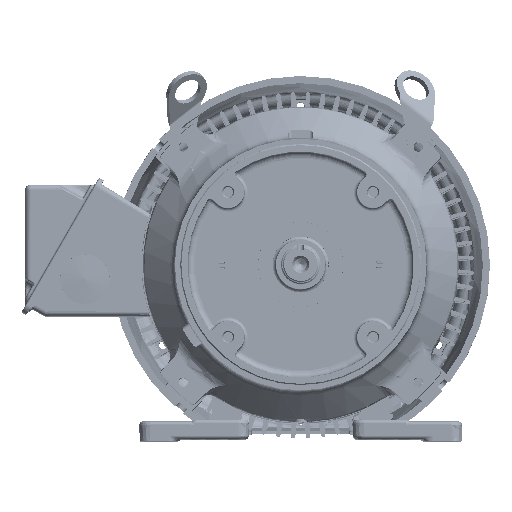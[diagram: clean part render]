
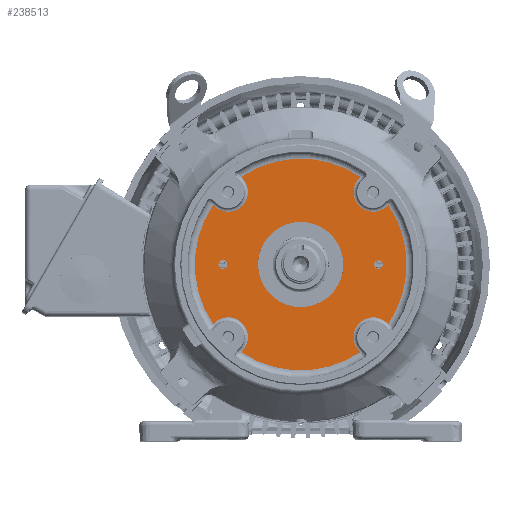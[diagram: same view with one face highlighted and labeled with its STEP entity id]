
A CAD part, top view. The second image highlights one B-rep face of the part: STEP entity #238513.
In plain terms, the highlighted planar face has unit normal (0, 0, 1) as drawn and (0, 0, -1) by its records, which use the part's own axes.
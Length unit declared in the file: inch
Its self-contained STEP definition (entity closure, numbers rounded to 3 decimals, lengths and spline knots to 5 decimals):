
#231382=CARTESIAN_POINT('',(0.,0.,-2.266));
#231383=DIRECTION('',(0.,0.,-1.));
#231384=DIRECTION('',(-0.827,-0.563,0.));
#231385=AXIS2_PLACEMENT_3D('',#231382,#231383,#231384);
#231397=CARTESIAN_POINT('',(0.,0.,-2.266));
#231398=DIRECTION('',(0.,0.,-1.));
#231399=DIRECTION('',(0.563,-0.827,0.));
#231400=AXIS2_PLACEMENT_3D('',#231397,#231398,#231399);
#231402=CARTESIAN_POINT('',(0.,0.,-2.266));
#231403=DIRECTION('',(0.,0.,-1.));
#231404=DIRECTION('',(-0.563,0.827,0.));
#231405=AXIS2_PLACEMENT_3D('',#231402,#231403,#231404);
#231412=CARTESIAN_POINT('',(0.,0.,-2.266));
#231413=DIRECTION('',(0.,0.,-1.));
#231414=DIRECTION('',(0.827,0.563,0.));
#231415=AXIS2_PLACEMENT_3D('',#231412,#231413,#231414);
#231437=CARTESIAN_POINT('',(-3.09494,-2.10574,
-2.266));
#231456=DIRECTION('',(-0.725,-0.688,
0.));
#231457=VECTOR('',#231456,0.07073);
#231458=CARTESIAN_POINT('',(-3.04364,-2.05705,-2.266));
#231459=LINE('',#231458,#231457);
#231470=CARTESIAN_POINT('',(-2.56326,-2.56326,-2.266));
#231471=DIRECTION('',(0.,0.,1.));
#231472=DIRECTION('',(0.725,-0.688,0.));
#231473=AXIS2_PLACEMENT_3D('',#231470,#231471,#231472);
#231484=DIRECTION('',(0.688,0.725,0.));
#231485=VECTOR('',#231484,0.07073);
#231486=CARTESIAN_POINT('',(-2.10574,-3.09494,
-2.266));
#231487=LINE('',#231486,#231485);
#231488=CARTESIAN_POINT('',(0.,0.,-2.266));
#231489=DIRECTION('',(0.,0.,1.));
#231490=DIRECTION('',(0.,1.,0.));
#231491=AXIS2_PLACEMENT_3D('',#231488,#231489,#231490);
#231493=CARTESIAN_POINT('',(0.,0.,-2.266));
#231494=DIRECTION('',(0.,0.,1.));
#231495=DIRECTION('',(0.,-1.,0.));
#231496=AXIS2_PLACEMENT_3D('',#231493,#231494,#231495);
#231498=CARTESIAN_POINT('',(2.75,0.,-2.266));
#231499=DIRECTION('',(0.,0.,1.));
#231500=DIRECTION('',(1.,0.,0.));
#231501=AXIS2_PLACEMENT_3D('',#231498,#231499,#231500);
#231503=CARTESIAN_POINT('',(2.75,0.,-2.266));
#231504=DIRECTION('',(0.,0.,1.));
#231505=DIRECTION('',(-1.,0.,0.));
#231506=AXIS2_PLACEMENT_3D('',#231503,#231504,#231505);
#231508=CARTESIAN_POINT('',(-2.75,0.,-2.266));
#231509=DIRECTION('',(0.,0.,1.));
#231510=DIRECTION('',(-1.,0.,0.));
#231511=AXIS2_PLACEMENT_3D('',#231508,#231509,#231510);
#231513=CARTESIAN_POINT('',(-2.75,0.,-2.266));
#231514=DIRECTION('',(0.,0.,1.));
#231515=DIRECTION('',(1.,0.,0.));
#231516=AXIS2_PLACEMENT_3D('',#231513,#231514,#231515);
#234155=DIRECTION('',(0.688,-0.725,0.));
#234156=VECTOR('',#234155,0.07073);
#234157=CARTESIAN_POINT('',(2.05705,-3.04364,-2.266));
#234158=LINE('',#234157,#234156);
#234219=CARTESIAN_POINT('',(3.09494,-2.10574,
-2.266));
#234230=DIRECTION('',(-0.725,0.688,0.));
#234231=VECTOR('',#234230,0.07073);
#234232=CARTESIAN_POINT('',(3.09494,-2.10574,
-2.266));
#234233=LINE('',#234232,#234231);
#234244=CARTESIAN_POINT('',(2.56326,-2.56326,-2.266));
#234245=DIRECTION('',(0.,0.,1.));
#234246=DIRECTION('',(0.688,0.725,0.));
#234247=AXIS2_PLACEMENT_3D('',#234244,#234245,#234246);
#234309=DIRECTION('',(0.725,0.688,0.));
#234310=VECTOR('',#234309,0.07073);
#234311=CARTESIAN_POINT('',(3.04364,2.05705,-2.266));
#234312=LINE('',#234311,#234310);
#234373=CARTESIAN_POINT('',(2.10574,3.09494,
-2.266));
#234384=DIRECTION('',(-0.688,-0.725,0.));
#234385=VECTOR('',#234384,0.07073);
#234386=CARTESIAN_POINT('',(2.10574,3.09494,
-2.266));
#234387=LINE('',#234386,#234385);
#234398=CARTESIAN_POINT('',(2.56326,2.56326,-2.266));
#234399=DIRECTION('',(0.,0.,1.));
#234400=DIRECTION('',(-0.725,0.688,0.));
#234401=AXIS2_PLACEMENT_3D('',#234398,#234399,#234400);
#234463=DIRECTION('',(-0.688,0.725,0.));
#234464=VECTOR('',#234463,0.07073);
#234465=CARTESIAN_POINT('',(-2.05705,3.04364,-2.266));
#234466=LINE('',#234465,#234464);
#234536=CARTESIAN_POINT('',(-2.56326,2.56326,-2.266));
#234537=DIRECTION('',(0.,0.,1.));
#234538=DIRECTION('',(-0.688,-0.725,0.));
#234539=AXIS2_PLACEMENT_3D('',#234536,#234537,#234538);
#234550=DIRECTION('',(0.725,-0.688,0.));
#234551=VECTOR('',#234550,0.07073);
#234552=CARTESIAN_POINT('',(-3.09494,2.10574,
-2.266));
#234553=LINE('',#234552,#234551);
#234577=CARTESIAN_POINT('',(-3.09494,2.10574,
-2.266));
#235448=VERTEX_POINT('',#231437);
#235452=CARTESIAN_POINT('',(-3.04364,-2.05705,-2.266));
#235453=VERTEX_POINT('',#235452);
#235456=CARTESIAN_POINT('',(-2.05705,-3.04364,-2.266));
#235457=VERTEX_POINT('',#235456);
#235460=CARTESIAN_POINT('',(-2.10574,-3.09494,
-2.266));
#235461=VERTEX_POINT('',#235460);
#235467=VERTEX_POINT('',#234577);
#235470=CARTESIAN_POINT('',(-3.04364,2.05705,-2.266));
#235471=VERTEX_POINT('',#235470);
#235474=CARTESIAN_POINT('',(-2.05705,3.04364,-2.266));
#235475=VERTEX_POINT('',#235474);
#235478=CARTESIAN_POINT('',(-2.10574,3.09494,
-2.266));
#235479=VERTEX_POINT('',#235478);
#235485=VERTEX_POINT('',#234373);
#235488=CARTESIAN_POINT('',(2.05705,3.04364,-2.266));
#235489=VERTEX_POINT('',#235488);
#235492=CARTESIAN_POINT('',(3.04364,2.05705,-2.266));
#235493=VERTEX_POINT('',#235492);
#235496=CARTESIAN_POINT('',(3.09494,2.10574,
-2.266));
#235497=VERTEX_POINT('',#235496);
#235503=VERTEX_POINT('',#234219);
#235506=CARTESIAN_POINT('',(3.04364,-2.05705,-2.266));
#235507=VERTEX_POINT('',#235506);
#235510=CARTESIAN_POINT('',(2.05705,-3.04364,-2.266));
#235511=VERTEX_POINT('',#235510);
#235514=CARTESIAN_POINT('',(2.10574,-3.09494,
-2.266));
#235515=VERTEX_POINT('',#235514);
#235688=CARTESIAN_POINT('',(2.9055,0.,-2.266));
#235689=CARTESIAN_POINT('',(2.5945,0.,-2.266));
#235690=VERTEX_POINT('',#235688);
#235691=VERTEX_POINT('',#235689);
#235692=CARTESIAN_POINT('',(-2.9055,0.,-2.266));
#235693=CARTESIAN_POINT('',(-2.5945,0.,-2.266));
#235694=VERTEX_POINT('',#235692);
#235695=VERTEX_POINT('',#235693);
#235889=CARTESIAN_POINT('',(0.,1.5075,-2.266));
#235890=CARTESIAN_POINT('',(0.,-1.5075,-2.266));
#235891=VERTEX_POINT('',#235889);
#235892=VERTEX_POINT('',#235890);
#238463=CARTESIAN_POINT('',(0.,0.,-2.266));
#238464=DIRECTION('',(0.,0.,1.));
#238465=DIRECTION('',(0.,1.,0.));
#238466=AXIS2_PLACEMENT_3D('',#238463,#238464,#238465);
#238467=PLANE('',#238466);
#238468=ORIENTED_EDGE('',*,*,#238430,.F.);
#238469=ORIENTED_EDGE('',*,*,#238444,.F.);
#238470=ORIENTED_EDGE('',*,*,#238457,.F.);
#238471=ORIENTED_EDGE('',*,*,#238338,.F.);
#238473=ORIENTED_EDGE('',*,*,#238472,.F.);
#238475=ORIENTED_EDGE('',*,*,#238474,.F.);
#238477=ORIENTED_EDGE('',*,*,#238476,.F.);
#238478=ORIENTED_EDGE('',*,*,#238365,.F.);
#238480=ORIENTED_EDGE('',*,*,#238479,.F.);
#238482=ORIENTED_EDGE('',*,*,#238481,.F.);
#238484=ORIENTED_EDGE('',*,*,#238483,.F.);
#238485=ORIENTED_EDGE('',*,*,#238350,.F.);
#238487=ORIENTED_EDGE('',*,*,#238486,.F.);
#238489=ORIENTED_EDGE('',*,*,#238488,.F.);
#238491=ORIENTED_EDGE('',*,*,#238490,.F.);
#238492=ORIENTED_EDGE('',*,*,#238321,.F.);
#238493=EDGE_LOOP('',(#238468,#238469,#238470,#238471,#238473,#238475,#238477,
#238478,#238480,#238482,#238484,#238485,#238487,#238489,#238491,#238492));
#238494=FACE_OUTER_BOUND('',#238493,.F.);
#238496=ORIENTED_EDGE('',*,*,#238495,.F.);
#238498=ORIENTED_EDGE('',*,*,#238497,.F.);
#238499=EDGE_LOOP('',(#238496,#238498));
#238500=FACE_BOUND('',#238499,.F.);
#238502=ORIENTED_EDGE('',*,*,#238501,.F.);
#238504=ORIENTED_EDGE('',*,*,#238503,.F.);
#238505=EDGE_LOOP('',(#238502,#238504));
#238506=FACE_BOUND('',#238505,.F.);
#238508=ORIENTED_EDGE('',*,*,#238507,.F.);
#238510=ORIENTED_EDGE('',*,*,#238509,.F.);
#238511=EDGE_LOOP('',(#238508,#238510));
#238512=FACE_BOUND('',#238511,.F.);
#238513=ADVANCED_FACE('',(#238494,#238500,#238506,#238512),#238467,.F.);
#231386=CIRCLE('',#231385,3.74337);
#231401=CIRCLE('',#231400,3.74337);
#231406=CIRCLE('',#231405,3.74337);
#231416=CIRCLE('',#231415,3.74337);
#231474=CIRCLE('',#231473,0.69786);
#231492=CIRCLE('',#231491,1.5075);
#231497=CIRCLE('',#231496,1.5075);
#231502=CIRCLE('',#231501,0.1555);
#231507=CIRCLE('',#231506,0.1555);
#231512=CIRCLE('',#231511,0.1555);
#231517=CIRCLE('',#231516,0.1555);
#234248=CIRCLE('',#234247,0.69786);
#234402=CIRCLE('',#234401,0.69786);
#234540=CIRCLE('',#234539,0.69786);
#238321=EDGE_CURVE('',#235448,#235467,#231386,.T.);
#238338=EDGE_CURVE('',#235515,#235461,#231401,.T.);
#238350=EDGE_CURVE('',#235479,#235485,#231406,.T.);
#238365=EDGE_CURVE('',#235497,#235503,#231416,.T.);
#238430=EDGE_CURVE('',#235453,#235448,#231459,.T.);
#238444=EDGE_CURVE('',#235457,#235453,#231474,.T.);
#238457=EDGE_CURVE('',#235461,#235457,#231487,.T.);
#238472=EDGE_CURVE('',#235511,#235515,#234158,.T.);
#238474=EDGE_CURVE('',#235507,#235511,#234248,.T.);
#238476=EDGE_CURVE('',#235503,#235507,#234233,.T.);
#238479=EDGE_CURVE('',#235493,#235497,#234312,.T.);
#238481=EDGE_CURVE('',#235489,#235493,#234402,.T.);
#238483=EDGE_CURVE('',#235485,#235489,#234387,.T.);
#238486=EDGE_CURVE('',#235475,#235479,#234466,.T.);
#238488=EDGE_CURVE('',#235471,#235475,#234540,.T.);
#238490=EDGE_CURVE('',#235467,#235471,#234553,.T.);
#238495=EDGE_CURVE('',#235690,#235691,#231502,.T.);
#238497=EDGE_CURVE('',#235691,#235690,#231507,.T.);
#238501=EDGE_CURVE('',#235694,#235695,#231512,.T.);
#238503=EDGE_CURVE('',#235695,#235694,#231517,.T.);
#238507=EDGE_CURVE('',#235891,#235892,#231492,.T.);
#238509=EDGE_CURVE('',#235892,#235891,#231497,.T.);
